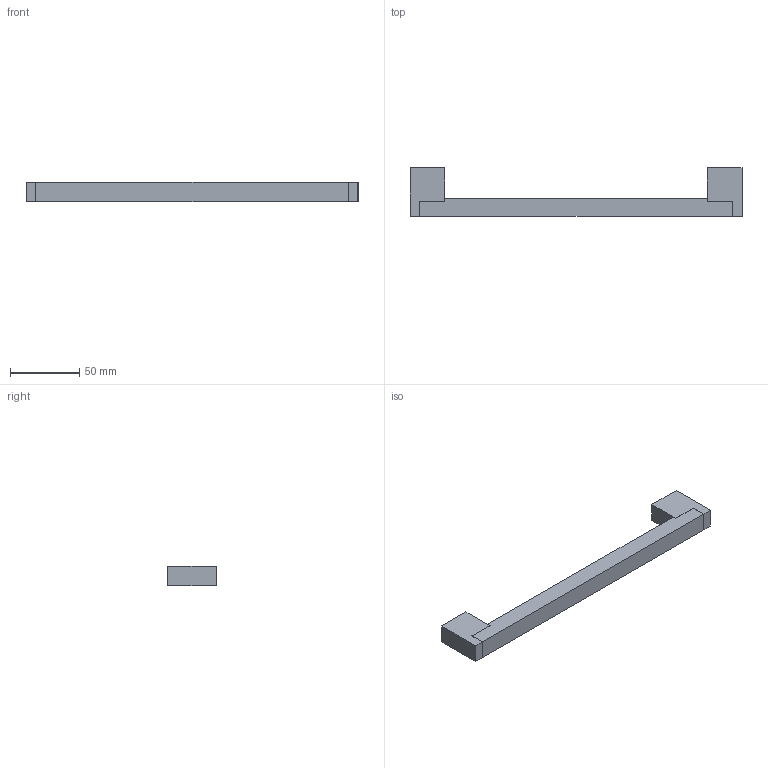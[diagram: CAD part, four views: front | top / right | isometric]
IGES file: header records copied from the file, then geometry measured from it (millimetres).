
Start section: Data from Parasolid IGES Translator 15.0.47, Copyright(c) 2006 Siemens P LM Software. All Rights Reserved.
Global section: file name: 9071742.igs; native system:  By UGS Corp.; preprocessor: XPlus GENERIC/IGES 3.0; author: Noname; organization: Noname; date: 20140122.181917; units: millimetre
Bounding box: 240 x 35 x 14 mm (x, y, z)
Surface area: 17017.4 mm2 (no closed solid volume)
Topology: 0 solids, 0 shells, 42 faces, 228 edges, 226 vertices
Faces by surface type: extrusion 40, revolution 2
